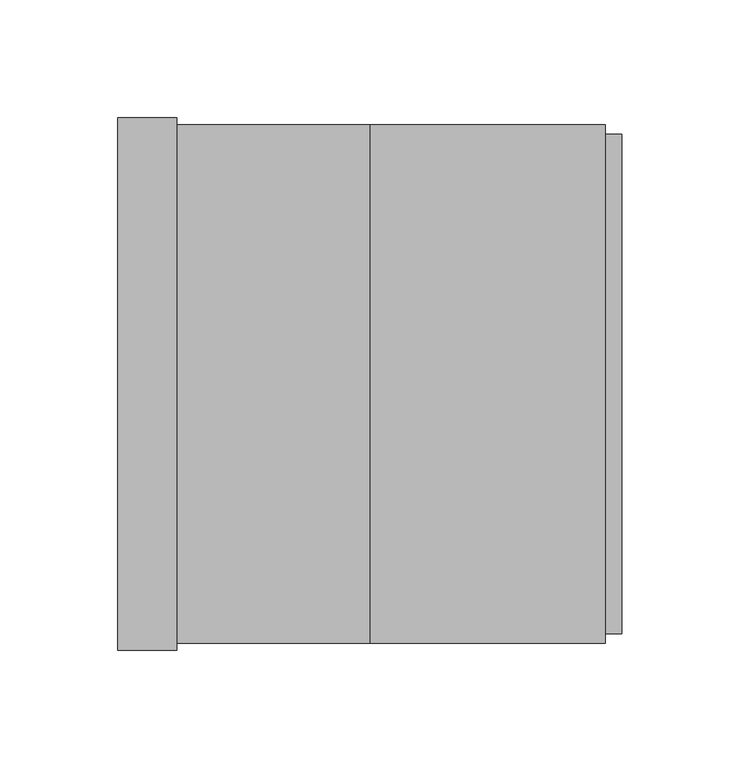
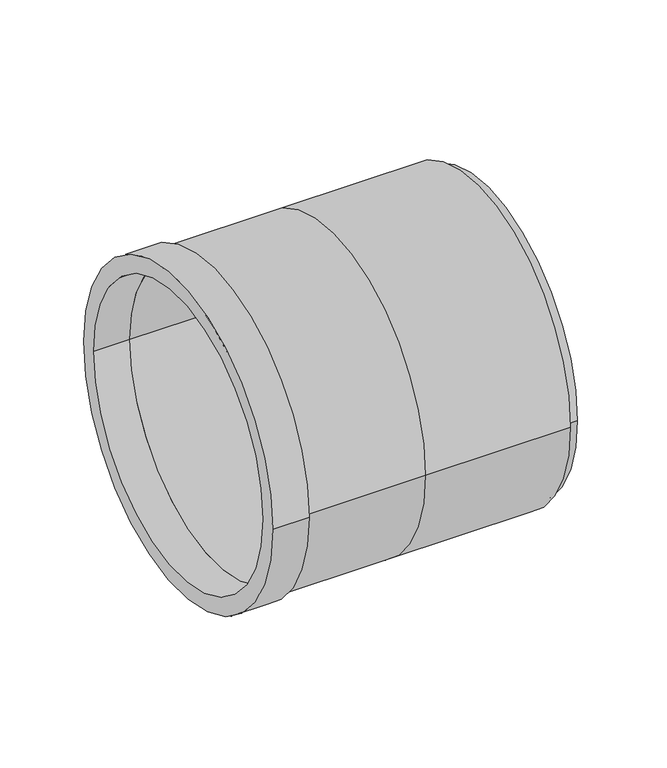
"""IFC4 building model written with IfcOpenShell, lengths in millimetres: pipe fitting geometry, Pipelife - Pragma OD - Nasuwka kanalizacyjna : Pipelife - Pragma OD - Nasuwka kanalizacyjna."""

from ifc_helpers import new_model, si_unit, point, frame, origin, origin_2d, place, context, project, spatial, polyline, circle_curve, trimmed, segment, composite_curve, outline, extrude, source, transform, mapped, element, save
from ifc_brep_helpers import plane_surface, cylinder_surface, revolved_surface, advanced_brep


def pipe_fitting_8a5913c7(model_context):
    return source(origin(), model_context, "Body", "SolidModel", [
        advanced_brep(
        [(-82.0, -110.0, 0.0), (-82.0, 110.0, 0.0), (-82.0, 101.0, 0.0), (-82.0, -101.0, 0.0), (0.0, -110.0, 0.0), (0.0, 110.0, 0.0), (0.0, -101.0, 0.0), (0.0, 101.0, 0.0), (100.0, -110.0, 0.0), (100.0, 110.0, 0.0), (100.0, 106.0, 0.0), (100.0, -106.0, 0.0), (107.0, 101.0, 0.0), (107.0, -101.0, 0.0), (107.0, -106.0, 0.0), (107.0, 106.0, 0.0)],
        [
            (0, 1, circle_curve(frame((-82.0, 0.0, 0.0), z_axis=(-1.0, 0.0, 0.0), x_axis=(0.0, 1.0, 0.0)), 110.0)),
            (1, 0, circle_curve(frame((-82.0, 0.0, 0.0), z_axis=(-1.0, 0.0, 0.0), x_axis=(0.0, 1.0, 0.0)), 110.0)),
            (2, 3, circle_curve(frame((-82.0, 0.0, 0.0), z_axis=(1.0, 0.0, 0.0), x_axis=(0.0, 1.0, 0.0)), 101.0)),
            (3, 2, circle_curve(frame((-82.0, 0.0, 0.0), z_axis=(1.0, 0.0, 0.0), x_axis=(0.0, 1.0, 0.0)), 101.0)),
            (0, 4),
            (4, 5, circle_curve(frame((0.0, 0.0, 0.0), z_axis=(-1.0, 0.0, 0.0), x_axis=(0.0, 1.0, 0.0)), 110.0)),
            (5, 1),
            (5, 4, circle_curve(frame((0.0, 0.0, 0.0), z_axis=(-1.0, 0.0, 0.0), x_axis=(0.0, 1.0, 0.0)), 110.0)),
            (6, 3),
            (2, 7),
            (7, 6, circle_curve(frame((0.0, 0.0, 0.0), z_axis=(1.0, 0.0, 0.0), x_axis=(0.0, 1.0, 0.0)), 101.0)),
            (6, 7, circle_curve(frame((0.0, 0.0, 0.0), z_axis=(1.0, 0.0, 0.0), x_axis=(0.0, 1.0, 0.0)), 101.0)),
            (8, 9, circle_curve(frame((100.0, 0.0, 0.0), z_axis=(1.0, 0.0, 0.0), x_axis=(0.0, 1.0, 0.0)), 110.0)),
            (9, 8, circle_curve(frame((100.0, 0.0, 0.0), z_axis=(1.0, 0.0, 0.0), x_axis=(0.0, 1.0, 0.0)), 110.0)),
            (10, 11, circle_curve(frame((100.0, 0.0, 0.0), z_axis=(-1.0, 0.0, 0.0), x_axis=(0.0, 1.0, 0.0)), 106.0)),
            (11, 10, circle_curve(frame((100.0, 0.0, 0.0), z_axis=(-1.0, 0.0, 0.0), x_axis=(0.0, 1.0, 0.0)), 106.0)),
            (9, 5),
            (4, 8),
            (7, 12),
            (12, 13, circle_curve(frame((107.0, 0.0, 0.0), z_axis=(1.0, 0.0, 0.0), x_axis=(0.0, 1.0, 0.0)), 101.0)),
            (13, 6),
            (13, 12, circle_curve(frame((107.0, 0.0, 0.0), z_axis=(1.0, 0.0, 0.0), x_axis=(0.0, 1.0, 0.0)), 101.0)),
            (14, 15, circle_curve(frame((107.0, 0.0, 0.0), z_axis=(1.0, 0.0, 0.0), x_axis=(0.0, 1.0, 0.0)), 106.0)),
            (15, 14, circle_curve(frame((107.0, 0.0, 0.0), z_axis=(1.0, 0.0, 0.0), x_axis=(0.0, 1.0, 0.0)), 106.0)),
            (14, 11),
            (10, 15),
        ],
        [
            plane_surface(frame((-82.0, 0.0, 0.0), z_axis=(-1.0, 0.0, 0.0), x_axis=(0.0, 0.0, 1.0))),
            cylinder_surface(frame((-82.0, 0.0, 0.0), z_axis=(-1.0, 0.0, 0.0), x_axis=(0.0, 1.0, 0.0)), 110.0),
            revolved_surface(polyline([(-82.0, 101.0, 0.0), (0.0, 101.0, 0.0)]), (-107.0, 0.0, 0.0), (-1.0, 0.0, 0.0)),
            plane_surface(frame((100.0, 0.0, 0.0), z_axis=(1.0, 0.0, 0.0), x_axis=(0.0, 0.0, 1.0))),
            cylinder_surface(frame((0.0, 0.0, 0.0), z_axis=(-1.0, 0.0, 0.0), x_axis=(0.0, 1.0, 0.0)), 110.0),
            revolved_surface(polyline([(0.0, 101.0, 0.0), (107.0, 101.0, 0.0)]), (0.0, 0.0, 0.0), (-1.0, 0.0, 0.0)),
            plane_surface(frame((107.0, 0.0, 0.0), z_axis=(1.0, 0.0, 0.0), x_axis=(0.0, 0.0, 1.0))),
            cylinder_surface(frame((100.0, 0.0, 0.0), z_axis=(-1.0, 0.0, 0.0), x_axis=(0.0, 1.0, 0.0)), 106.0),
        ],
        [
            (0, [[1, 2], [3, 4]]),
            (1, [[-1, 5, 6, 7]]),
            (1, [[-2, -7, 8, -5]]),
            (2, [[9, -3, 10, 11]]),
            (2, [[-9, 12, -10, -4]]),
            (3, [[13, 14], [15, 16]]),
            (4, [[-14, 17, -6, 18]]),
            (4, [[-13, -18, -8, -17]]),
            (5, [[19, 20, 21, -11]]),
            (5, [[-19, -12, -21, 22]]),
            (6, [[23, 24], [-20, -22]]),
            (7, [[-23, 25, -15, 26]]),
            (7, [[-24, -26, -16, -25]]),
        ],
    ),
        extrude(outline(composite_curve([segment(trimmed(circle_curve(origin_2d(), 113.0), [point((-113.0, 0.0))], [point((113.0, 0.0))], False, "CARTESIAN"), True, "CONTINUOUS"), segment(trimmed(circle_curve(origin_2d(), 113.0), [point((113.0, 0.0))], [point((-113.0, 0.0))], False, "CARTESIAN"), True, "CONTINUOUS")], self_intersect=False), holes=[composite_curve([segment(trimmed(circle_curve(origin_2d(), 101.0), [point((101.0, 0.0))], [point((-101.0, 0.0))], True, "CARTESIAN"), True, "CONTINUOUS"), segment(trimmed(circle_curve(origin_2d(), 101.0), [point((-101.0, 0.0))], [point((101.0, 0.0))], True, "CARTESIAN"), True, "CONTINUOUS")], self_intersect=False)]), frame((-107.0, 0.0, 0.0), z_axis=(1.0, 0.0, 0.0), x_axis=(0.0, 1.0, 0.0)), (0.0, 0.0, 1.0), 25.0),
    ])


if __name__ == "__main__":
    model = new_model("IFC4")
    model_context = context("Model", 3, world=origin())
    ifc_project = project(units=[si_unit("LENGTHUNIT", "METRE", prefix="MILLI")], contexts=[model_context])
    site = spatial("IfcSite", under=ifc_project)
    building = spatial("IfcBuilding", under=site)
    placement = place(None, origin())
    pipe_fitting_shape = pipe_fitting_8a5913c7(model_context)
    element("IfcPipeFitting", 1, ObjectType="Pipelife - Pragma OD - Nasuwka kanalizacyjna : Pipelife - Pragma OD - Nasuwka kanalizacyjna", at=placement, inside=building, context=model_context, shape_type="MappedRepresentation", body=[
        mapped(pipe_fitting_shape, transform((0.0, 0.0, 0.0), x_axis=(1.0, 0.0, 0.0), y_axis=(0.0, 1.0, 0.0), z_axis=(0.0, 0.0, 1.0))),
    ])
    save(model, "model.ifc")
